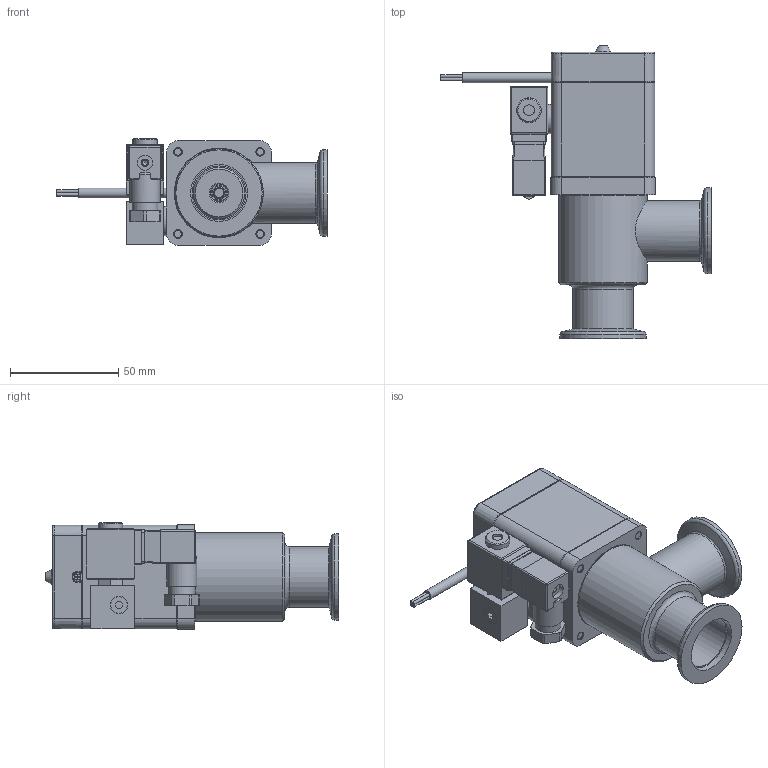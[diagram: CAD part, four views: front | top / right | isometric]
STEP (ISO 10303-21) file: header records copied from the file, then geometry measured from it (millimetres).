
FILE_DESCRIPTION(/* description */ (''),/* implementation_level */ '2;1');
FILE_NAME(/* name */ '1482812080_203.stp',/* time_stamp */ '2013-07-17T10:41:25+02:00',/* author */ (''),/* organization */ (''),/* preprocessor_version */ 'ST-DEVELOPER v11',/* originating_system */ 'SIEMENS PLM Software NX 7.5',/* authorisation */ '');
FILE_SCHEMA (('AP203_CONFIGURATION_CONTROLLED_3D_DESIGN_OF_MECHANICAL_PARTS_AND_ASSEMBLIES_MIM_LF'));
Length unit declared in the file: millimetre
Products named in the file (17): 245690.2; 245689.5; 245688.7; 239888_6.1; 233359; 236208.2; 236204_1.1; 238513.2; 238512.3; 239359.4; 245188.1; 243878.2; 238487.6; 245687.12; 233248_NX-ARRAGMNTGerades Kabel; 235683.15_NX-ARRAGMNTZUSAMMENST1; 701848
Assembly tree (21 placements, depth 3):
  701848
    238487.6
    235683.15_NX-ARRAGMNTZUSAMMENST1
      238512.3
      238513.2
    243878.2
    245188.1  x4
    239359.4
    233248_NX-ARRAGMNTGerades Kabel
      236204_1.1  x2
      236208.2  x2
      233359
      239888_6.1
    245687.12
      245688.7
      245689.5
      245690.2
Bounding box: 125 x 135.91 x 49.3 mm (x, y, z)
Volume: 137119.3 mm3; surface area: 85469.5 mm2
Topology: 27 solids, 27 shells, 787 faces, 1860 edges, 1202 vertices
Faces by surface type: plane 458, cylinder 211, cone 75, bspline 20, torus 17, sphere 6
Full cylindrical faces by diameter (mm): 1.4 x8, 2 x6, 2.2 x4, 2.5 x4, 2.95 x1, 3 x8, 3.26 x4, 3.3 x5, 4 x12, 4.2 x1, 4.4 x1, 4.5 x4, 4.6 x1, 4.7 x3, 5 x4, 5.1 x1, 5.6 x2, 6 x4, 7 x5, 7.4 x2, 7.6 x1, 7.9 x1, 7.975 x3, 8 x6, 8.012 x2, 9.25 x1, 10.2 x1, 11.3 x1, 11.4 x1, 11.5 x2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
Entity records: 22061 total; most frequent: CARTESIAN_POINT 4263, DIRECTION 3158, ORIENTED_EDGE 2838, EDGE_CURVE 1419, AXIS2_PLACEMENT_3D 1141, VERTEX_POINT 1024, EDGE_LOOP 974, LINE 876
